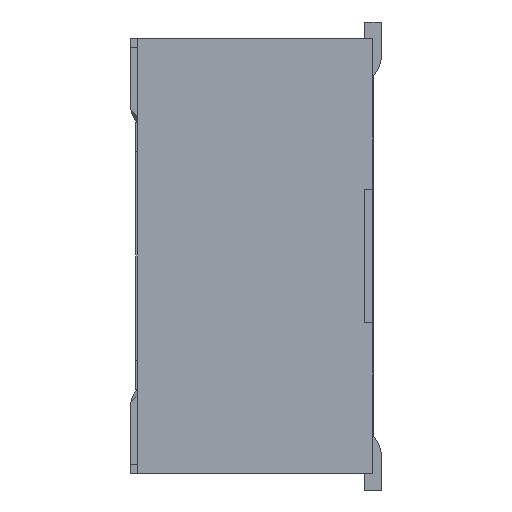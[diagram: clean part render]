
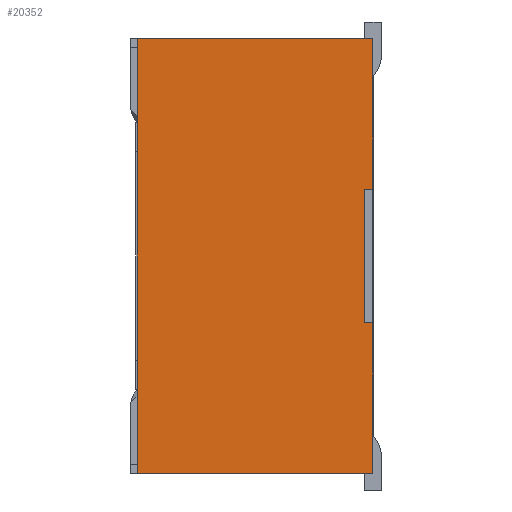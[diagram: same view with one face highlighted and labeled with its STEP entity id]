
A CAD part, left-side view. The second image highlights one B-rep face of the part: STEP entity #20352.
In plain terms, the highlighted planar face has unit normal (-1, 0, 0).
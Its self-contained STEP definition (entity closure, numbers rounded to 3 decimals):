
#220 = CARTESIAN_POINT ( 'NONE',  ( -4.825, 0.05, -1.3 ) ) ;
#412 = DIRECTION ( 'NONE',  ( -1., 0., 0. ) ) ;
#821 = EDGE_CURVE ( 'NONE', #19169, #6787, #34319, .T. ) ;
#1826 = CARTESIAN_POINT ( 'NONE',  ( -4.825, 0.1, -0.4 ) ) ;
#2299 = DIRECTION ( 'NONE',  ( 0., 0., 1. ) ) ;
#3014 = LINE ( 'NONE', #38496, #23843 ) ;
#4123 = VERTEX_POINT ( 'NONE', #1826 ) ;
#4165 = CARTESIAN_POINT ( 'NONE',  ( -4.825, 0.1, 0.4 ) ) ;
#4614 = DIRECTION ( 'NONE',  ( 0., 1., 0. ) ) ;
#6045 = CARTESIAN_POINT ( 'NONE',  ( -4.825, 1.46, 1.3 ) ) ;
#6787 = VERTEX_POINT ( 'NONE', #26567 ) ;
#6811 = EDGE_CURVE ( 'NONE', #48042, #25464, #52328, .T. ) ;
#7212 = DIRECTION ( 'NONE',  ( 0., -1., 0. ) ) ;
#9399 = VECTOR ( 'NONE', #43312, 1000. ) ;
#9603 = LINE ( 'NONE', #14161, #41474 ) ;
#10554 = LINE ( 'NONE', #18684, #53457 ) ;
#10866 = VECTOR ( 'NONE', #7212, 1000. ) ;
#11148 = ORIENTED_EDGE ( 'NONE', *, *, #32533, .F. ) ;
#11889 = ORIENTED_EDGE ( 'NONE', *, *, #15460, .F. ) ;
#12269 = EDGE_CURVE ( 'NONE', #26331, #25464, #28112, .T. ) ;
#13312 = CARTESIAN_POINT ( 'NONE',  ( -4.825, 1.46, 1.3 ) ) ;
#14161 = CARTESIAN_POINT ( 'NONE',  ( -4.825, 0.1, 0.4 ) ) ;
#14207 = LINE ( 'NONE', #29868, #33757 ) ;
#14251 = EDGE_CURVE ( 'NONE', #4123, #41395, #14207, .T. ) ;
#14811 = CARTESIAN_POINT ( 'NONE',  ( -4.825, 1.46, -1.3 ) ) ;
#15460 = EDGE_CURVE ( 'NONE', #48042, #28258, #3014, .T. ) ;
#17345 = FACE_OUTER_BOUND ( 'NONE', #50223, .T. ) ;
#17774 = DIRECTION ( 'NONE',  ( 0., -1., 0. ) ) ;
#18684 = CARTESIAN_POINT ( 'NONE',  ( -4.825, 0.05, 1.3 ) ) ;
#19169 = VERTEX_POINT ( 'NONE', #4165 ) ;
#20352 = ADVANCED_FACE ( 'NONE', ( #17345 ), #25274, .T. ) ;
#22372 = DIRECTION ( 'NONE',  ( 0., 0., -1. ) ) ;
#22733 = CARTESIAN_POINT ( 'NONE',  ( -4.825, 0.05, 1.3 ) ) ;
#23843 = VECTOR ( 'NONE', #17774, 1000. ) ;
#25274 = PLANE ( 'NONE',  #52340 ) ;
#25464 = VERTEX_POINT ( 'NONE', #14811 ) ;
#26331 = VERTEX_POINT ( 'NONE', #220 ) ;
#26567 = CARTESIAN_POINT ( 'NONE',  ( -4.825, 0.05, 0.4 ) ) ;
#27047 = DIRECTION ( 'NONE',  ( 0., 0., 1. ) ) ;
#27181 = CARTESIAN_POINT ( 'NONE',  ( -4.825, 0.05, 1.3 ) ) ;
#27625 = LINE ( 'NONE', #27181, #49707 ) ;
#28112 = LINE ( 'NONE', #42080, #36581 ) ;
#28258 = VERTEX_POINT ( 'NONE', #22733 ) ;
#29497 = DIRECTION ( 'NONE',  ( 0., 0., -1. ) ) ;
#29701 = DIRECTION ( 'NONE',  ( 0., -1., 0. ) ) ;
#29868 = CARTESIAN_POINT ( 'NONE',  ( -4.825, 0.1, -0.4 ) ) ;
#30251 = ORIENTED_EDGE ( 'NONE', *, *, #821, .T. ) ;
#32533 = EDGE_CURVE ( 'NONE', #19169, #4123, #9603, .T. ) ;
#33397 = ORIENTED_EDGE ( 'NONE', *, *, #12269, .F. ) ;
#33757 = VECTOR ( 'NONE', #29701, 1000. ) ;
#34319 = LINE ( 'NONE', #40300, #10866 ) ;
#34999 = EDGE_CURVE ( 'NONE', #6787, #28258, #27625, .T. ) ;
#36148 = EDGE_CURVE ( 'NONE', #26331, #41395, #10554, .T. ) ;
#36581 = VECTOR ( 'NONE', #4614, 1000. ) ;
#37485 = CARTESIAN_POINT ( 'NONE',  ( -4.825, 0.05, -0.4 ) ) ;
#38496 = CARTESIAN_POINT ( 'NONE',  ( -4.825, 1.3, 1.3 ) ) ;
#40300 = CARTESIAN_POINT ( 'NONE',  ( -4.825, 0.1, 0.4 ) ) ;
#41395 = VERTEX_POINT ( 'NONE', #37485 ) ;
#41474 = VECTOR ( 'NONE', #22372, 1000. ) ;
#41854 = CARTESIAN_POINT ( 'NONE',  ( -4.825, 0., 0. ) ) ;
#42080 = CARTESIAN_POINT ( 'NONE',  ( -4.825, 1.3, -1.3 ) ) ;
#42105 = ORIENTED_EDGE ( 'NONE', *, *, #36148, .T. ) ;
#43312 = DIRECTION ( 'NONE',  ( 0., 0., -1. ) ) ;
#48042 = VERTEX_POINT ( 'NONE', #13312 ) ;
#48419 = ORIENTED_EDGE ( 'NONE', *, *, #34999, .T. ) ;
#49072 = ORIENTED_EDGE ( 'NONE', *, *, #6811, .T. ) ;
#49707 = VECTOR ( 'NONE', #2299, 1000. ) ;
#50223 = EDGE_LOOP ( 'NONE', ( #49072, #33397, #42105, #53344, #11148, #30251, #48419, #11889 ) ) ;
#52328 = LINE ( 'NONE', #6045, #9399 ) ;
#52340 = AXIS2_PLACEMENT_3D ( 'NONE', #41854, #412, #29497 ) ;
#53344 = ORIENTED_EDGE ( 'NONE', *, *, #14251, .F. ) ;
#53457 = VECTOR ( 'NONE', #27047, 1000. ) ;
